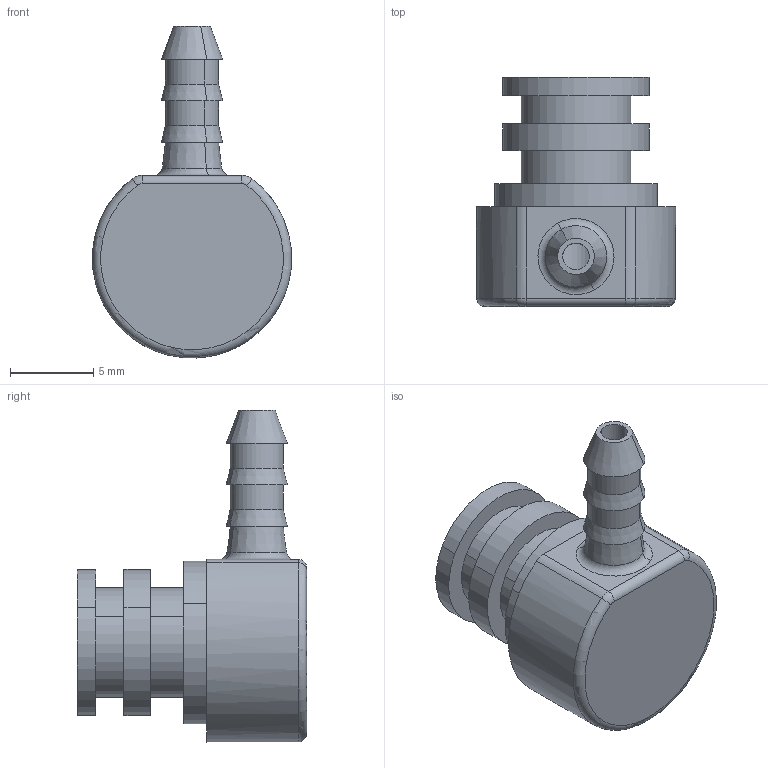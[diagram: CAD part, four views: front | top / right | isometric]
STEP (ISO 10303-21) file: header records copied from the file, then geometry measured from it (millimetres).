
FILE_DESCRIPTION(('CATIA V5 STEP Exchange'),'2;1');
FILE_NAME('G:\够快云库\系统集成开发部\1.部门成员\孙国\腰托阀\STP\BPC0010203 4mm直角接头.stp','2021-09-04T09:25:47+00:00',('none'),('none'),'CATIA Version 5 Release 20 GA (IN-10)','CATIA V5 STEP AP214','none');
FILE_SCHEMA(('AUTOMOTIVE_DESIGN { 1 0 10303 214 1 1 1 1 }'));
Length unit declared in the file: millimetre
Products named in the file (1): BPC0010203
Bounding box: 12 x 13.8 x 19.99 mm (x, y, z)
Volume: 967.5 mm3; surface area: 1022.5 mm2
Topology: 1 solids, 1 shells, 55 faces, 114 edges, 72 vertices
Faces by surface type: cylinder 26, plane 14, cone 10, torus 5
Entity records: 1406 total; most frequent: CARTESIAN_POINT 298, ORIENTED_EDGE 228, DIRECTION 180, EDGE_CURVE 114, AXIS2_PLACEMENT_3D 105, VERTEX_POINT 72, EDGE_LOOP 68, CIRCLE 67
